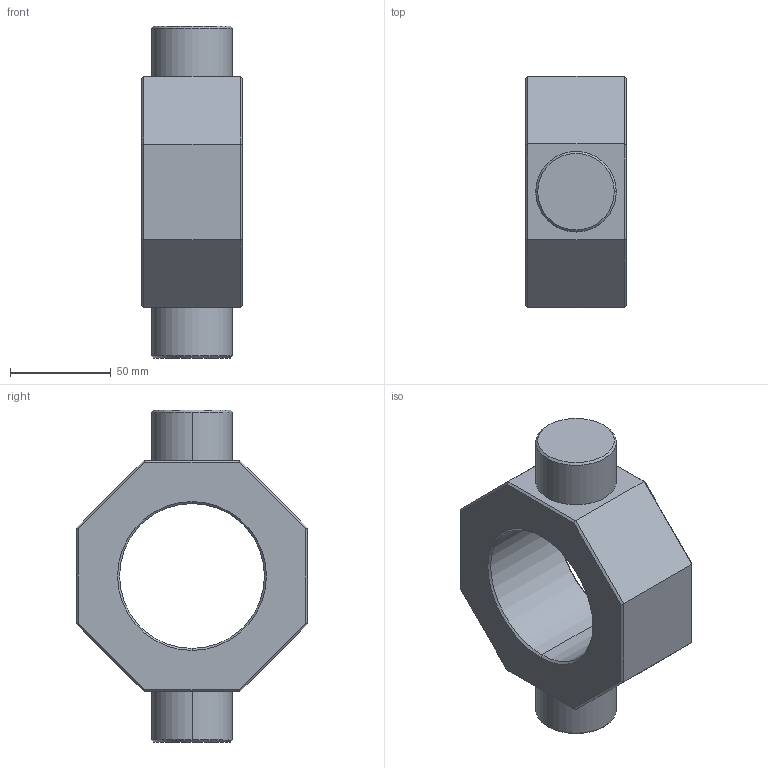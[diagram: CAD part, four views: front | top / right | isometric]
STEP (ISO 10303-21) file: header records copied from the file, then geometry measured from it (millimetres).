
FILE_DESCRIPTION (( 'STEP AP214' ), '1' );
FILE_NAME ('LB-KA-72.STEP', '2025-04-08T13:06:51', ( '' ), ( '' ), 'SwSTEP 2.0', 'SolidWorks 2023', '' );
FILE_SCHEMA (( 'AUTOMOTIVE_DESIGN' ));
Length unit declared in the file: millimetre
Products named in the file (1): LB-KA-72
Bounding box: 50 x 115 x 165 mm (x, y, z)
Volume: 397988.3 mm3; surface area: 53308.4 mm2
Topology: 1 solids, 1 shells, 78 faces, 174 edges, 94 vertices
Faces by surface type: cone 32, plane 28, cylinder 18
Entity records: 2053 total; most frequent: DIRECTION 376, CARTESIAN_POINT 335, ORIENTED_EDGE 324, EDGE_CURVE 162, AXIS2_PLACEMENT_3D 135, VECTOR 106, LINE 106, VERTEX_POINT 94
